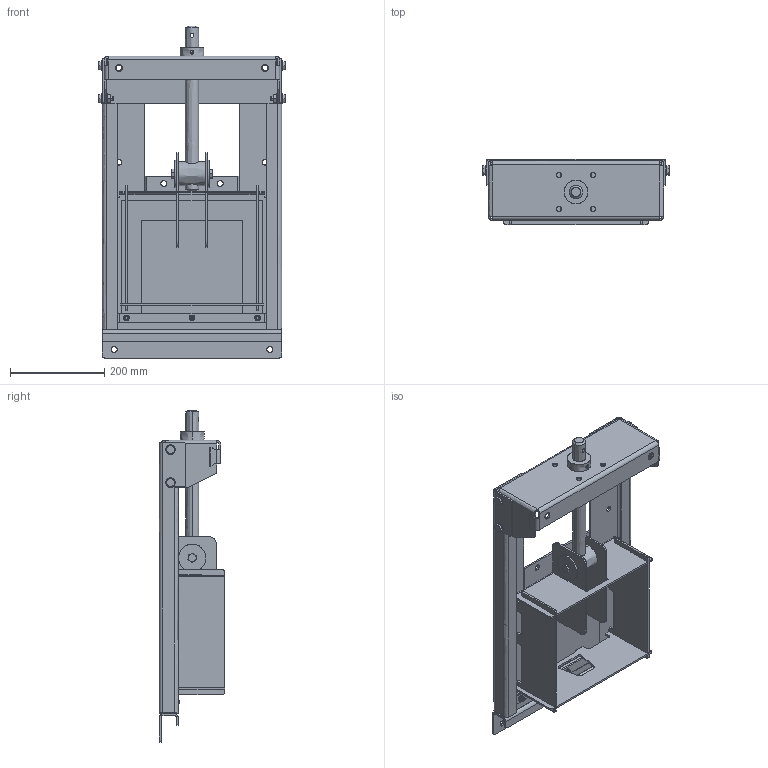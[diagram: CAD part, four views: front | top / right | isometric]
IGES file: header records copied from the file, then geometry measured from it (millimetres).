
Start section: SolidWorks IGES file using analytic representation for surfaces
Global section: file name: C:\Users\k.gigout\Desktop\3D\200x200\VGM620X-00EP0200.IGS; native system: SolidWorks 2017; preprocessor: SolidWorks 2017; author: k.gigout; date: 200410.112627; units: millimetre
Bounding box: 396.8 x 139 x 704 mm (x, y, z)
Surface area: 1588586.9 mm2 (no closed solid volume)
Topology: 0 solids, 0 shells, 1623 faces, 22874 edges, 22866 vertices
Faces by surface type: bspline 819, revolution 804
